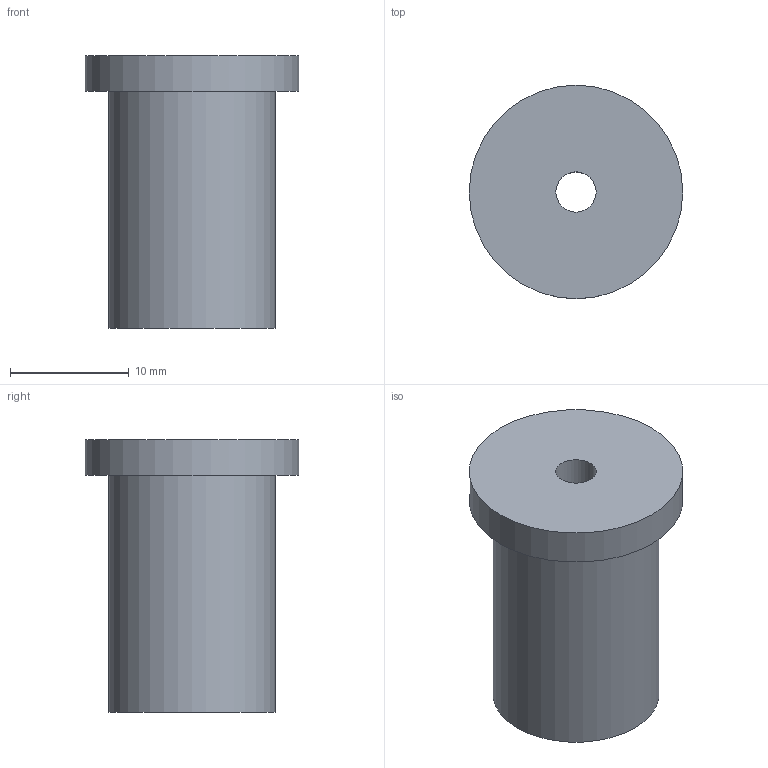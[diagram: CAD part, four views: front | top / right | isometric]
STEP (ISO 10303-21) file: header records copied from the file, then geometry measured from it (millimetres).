
FILE_DESCRIPTION(('FreeCAD Model'),'2;1');
FILE_NAME('Open CASCADE Shape Model','2026-10-26T11:51:18',('FreeCAD'),( 'FreeCAD'),'Open CASCADE STEP processor 7.8','FreeCAD','Unknown');
FILE_SCHEMA(('AUTOMOTIVE_DESIGN { 1 0 10303 214 1 1 1 1 }'));
Length unit declared in the file: millimetre
Products named in the file (1): Open CASCADE STEP translator 7.8 4
Bounding box: 18 x 18 x 23 mm (x, y, z)
Volume: 3495 mm3; surface area: 1850.7 mm2
Topology: 1 solids, 1 shells, 13 faces, 27 edges, 18 vertices
Faces by surface type: plane 10, cylinder 3
Full cylindrical faces by diameter (mm): 3.4 x1, 14 x1, 18 x1
Entity records: 360 total; most frequent: CARTESIAN_POINT 60, DIRECTION 60, ORIENTED_EDGE 54, EDGE_CURVE 27, AXIS2_PLACEMENT_3D 20, LINE 20, VECTOR 20, VERTEX_POINT 18
